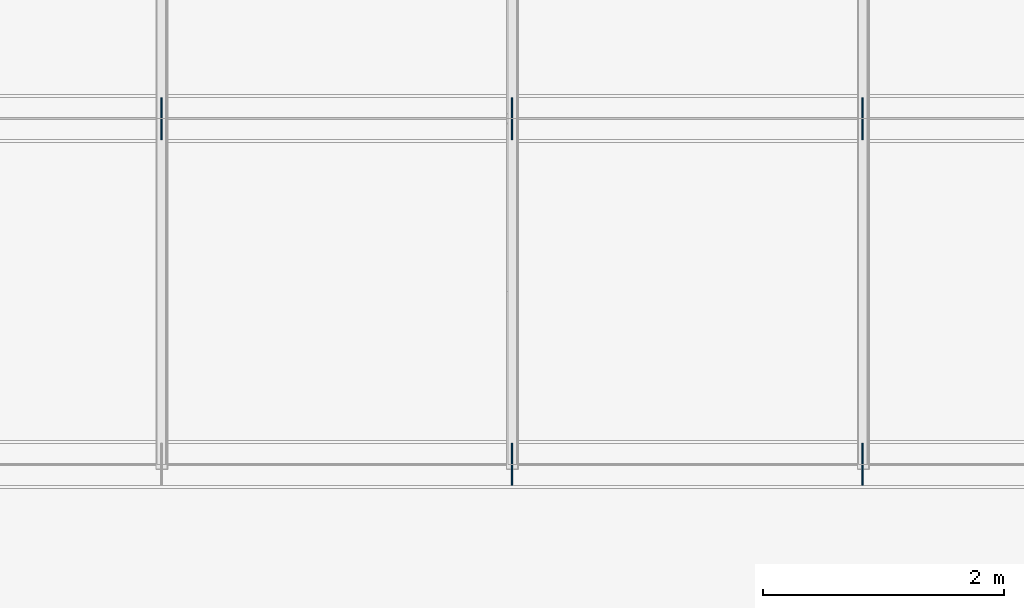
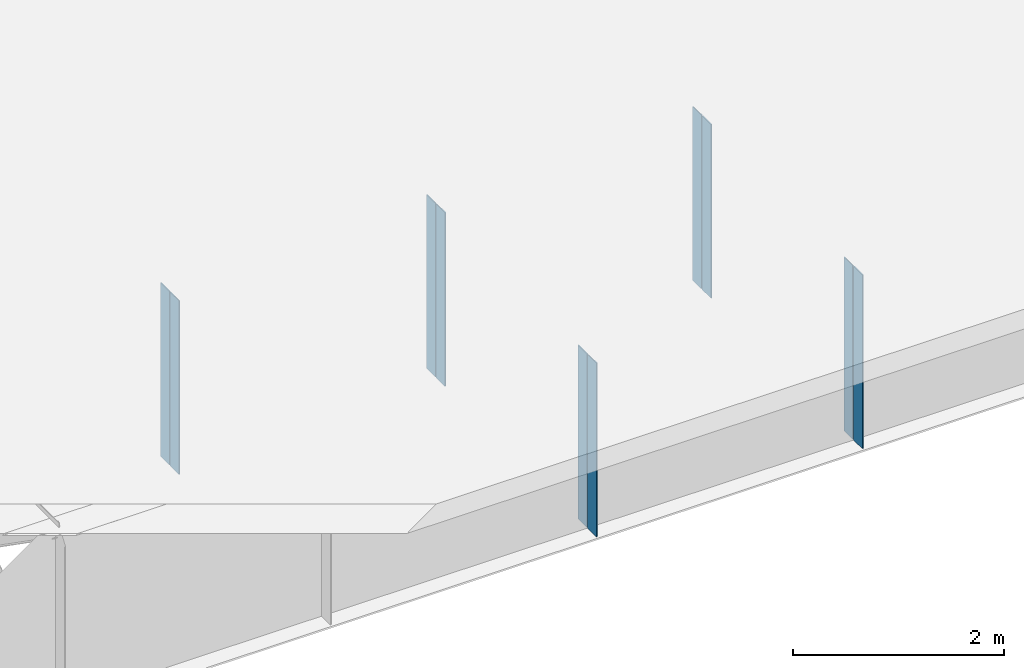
# One storey, part 8 of 13: 10 plates.
"""IFC4 building model written with IfcOpenShell, lengths in metres."""

from ifc_helpers import new_model, si_unit, frame, origin, origin_with_axes, origin_2d_with_axis, place, context, subcontext, project, spatial, rectangle, extrude, element, save


model = new_model("IFC4")

# Units and contexts
model_context = context("Model", 3, precision=1e-05, world=origin())
body_context = subcontext(model_context, "Body", "Model", "MODEL_VIEW")
ifc_project = project(units=[si_unit("LENGTHUNIT", "METRE"), si_unit("AREAUNIT", "SQUARE_METRE"), si_unit("VOLUMEUNIT", "CUBIC_METRE"), si_unit("PLANEANGLEUNIT", "RADIAN")], contexts=[model_context])

# Site, building, storey
site_placement = place(None, origin_with_axes())
site = spatial("IfcSite", under=ifc_project, at=site_placement, Name="Default Site")
building_placement = place(site_placement, origin_with_axes())
building = spatial("IfcBuilding", under=site, at=building_placement, Name="Bridge Structure")
storey_placement = place(building_placement, origin_with_axes())
storey = spatial("IfcBuildingStorey", under=building, at=storey_placement, Name="Superstructure")

# Plates
for number, where, z_axis, x_axis, name in (
    (1, (20.412, -4.2215, -1.006), (0.0, 0.0, 1.0), (1.0, 0.0, 0.0), "Intermediate Stiffener 1"),
    (2, (20.412, -4.4035, -1.006), (0.0, 0.0, 1.0), (1.0, 0.0, 0.0), "Intermediate Stiffener 1"),
    (3, (23.328, -4.2215, -1.006), (0.0, 0.0, 1.0), (1.0, 0.0, 0.0), "Intermediate Stiffener 1"),
    (4, (23.328, -4.4035, -1.006), (0.0, 0.0, 1.0), (1.0, 0.0, 0.0), "Intermediate Stiffener 1"),
    (5, (17.496, -1.3465, -1.006), (0.0, 0.0, 1.0), (1.0, 0.0, 0.0), "Intermediate Stiffener 2"),
    (6, (17.496, -1.5285, -1.006), (0.0, 0.0, 1.0), (1.0, 0.0, 0.0), "Intermediate Stiffener 2"),
    (7, (20.412, -1.3465, -1.006), (0.0, 0.0, 1.0), (1.0, 0.0, 0.0), "Intermediate Stiffener 2"),
    (8, (20.412, -1.5285, -1.006), (0.0, 0.0, 1.0), (1.0, 0.0, 0.0), "Intermediate Stiffener 2"),
    (9, (23.328, -1.3465, -1.006), (0.0, 0.0, 1.0), (1.0, 0.0, 0.0), "Intermediate Stiffener 2"),
    (10, (23.328, -1.5285, -1.006), (0.0, 0.0, 1.0), (1.0, 0.0, 0.0), "Intermediate Stiffener 2"),
):
    element("IfcPlate", number, at=place(storey_placement, frame(where, z_axis=z_axis, x_axis=x_axis)), inside=storey, Name=name, context=body_context, shape_type="SweptSolid", body=[
        extrude(rectangle(XDim=0.012, YDim=0.168, at=origin_2d_with_axis()), origin_with_axes(), (0.0, 0.0, 1.0), 2.012),
    ])

save(model, "model.ifc")
